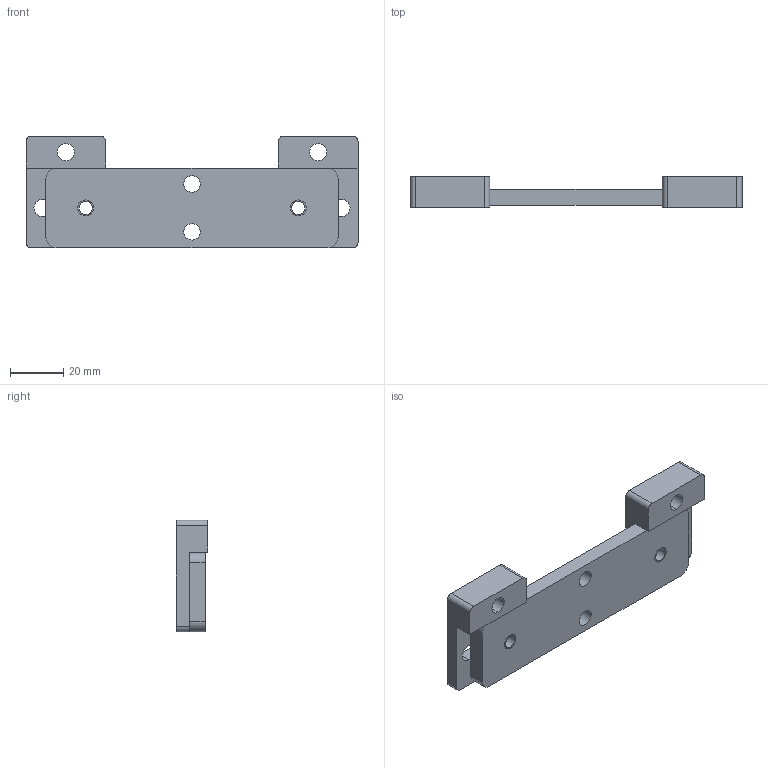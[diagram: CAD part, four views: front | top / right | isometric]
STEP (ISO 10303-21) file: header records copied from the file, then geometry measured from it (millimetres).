
FILE_DESCRIPTION((''),'2;1');
FILE_NAME('FIPA4545D_ASM','2002-12-27T',('Lipro doo'),('Lipro d.o.o.'),'PRO/ENGINEER BY PARAMETRIC TECHNOLOGY CORPORATION, 2001150','PRO/ENGINEER BY PARAMETRIC TECHNOLOGY CORPORATION, 2001150','');
FILE_SCHEMA(('CONFIG_CONTROL_DESIGN'));
Length unit declared in the file: millimetre
Products named in the file (3): FIPA_3; FIPA_1; FIPA4545D_ASM
Assembly tree (3 placements, depth 2):
  FIPA4545D_ASM
    FIPA_3
    FIPA_1  x2
Bounding box: 125 x 12 x 42 mm (x, y, z)
Volume: 34428.9 mm3; surface area: 16553 mm2
Topology: 3 solids, 5 shells, 62 faces, 164 edges, 108 vertices
Faces by surface type: cylinder 32, plane 26, cone 4
Entity records: 1512 total; most frequent: DIRECTION 272, CARTESIAN_POINT 244, ORIENTED_EDGE 224, EDGE_CURVE 116, AXIS2_PLACEMENT_3D 104, VERTEX_POINT 76, VECTOR 64, LINE 64
